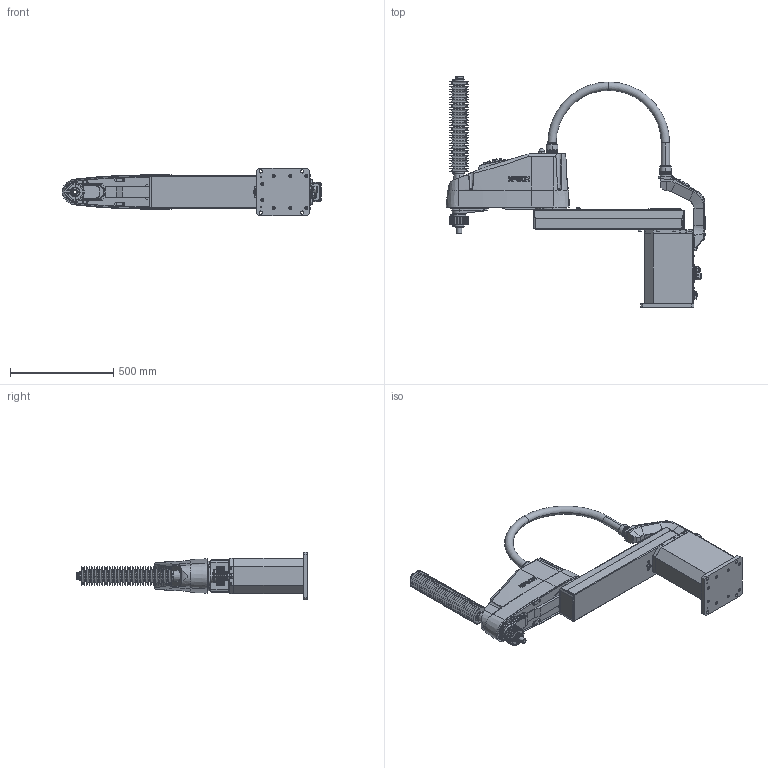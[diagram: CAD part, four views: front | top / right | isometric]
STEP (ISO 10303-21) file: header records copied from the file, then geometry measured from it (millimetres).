
FILE_DESCRIPTION (( 'STEP AP214' ), '1' );
FILE_NAME ('LS20-xA04C.STEP', '2026-08-05T00:38:12', ( '' ), ( '' ), 'SwSTEP 2.0', 'SolidWorks 2020', '' );
FILE_SCHEMA (( 'AUTOMOTIVE_DESIGN' ));
Length unit declared in the file: millimetre
Products named in the file (9): LS20-CA04C_BASE; LS20-CA04C_BELLOWS2; LS20-CA04C_J2; LS20-CA04C_SHAFT; LS20-xA04C; LS20-CA04C_BASE2; LS20-CA04C_BELLOWS; LS20-CA04C_J1; LS20-CA04C_CABLE
Assembly tree (8 placements, depth 2):
  LS20-xA04C
    LS20-CA04C_BASE
    LS20-CA04C_BASE2
    LS20-CA04C_J1
    LS20-CA04C_J2
    LS20-CA04C_SHAFT
    LS20-CA04C_BELLOWS
    LS20-CA04C_BELLOWS2
    LS20-CA04C_CABLE
Bounding box: 1257.3 x 1119.3 x 230 mm (x, y, z)
Volume: 45274866.8 mm3; surface area: 3374594.5 mm2
Topology: 8 solids, 8 shells, 4162 faces, 10185 edges, 6380 vertices
Faces by surface type: plane 1630, cylinder 1305, cone 1038, torus 141, sphere 38, bspline 10
Entity records: 150873 total; most frequent: CARTESIAN_POINT 42071, ORIENTED_EDGE 20254, DIRECTION 19524, EDGE_CURVE 10127, AXIS2_PLACEMENT_3D 7378, VERTEX_POINT 6378, VECTOR 4768, LINE 4768
